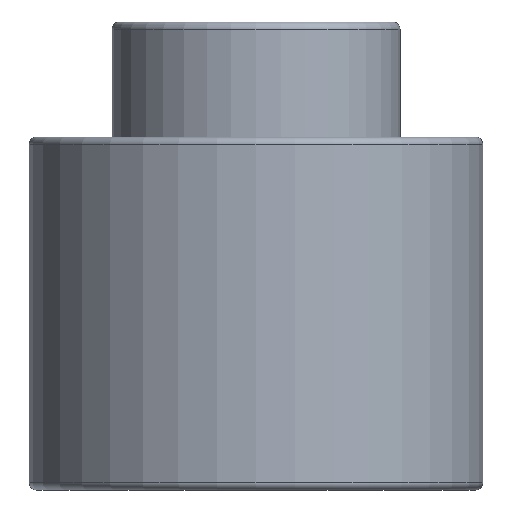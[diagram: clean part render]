
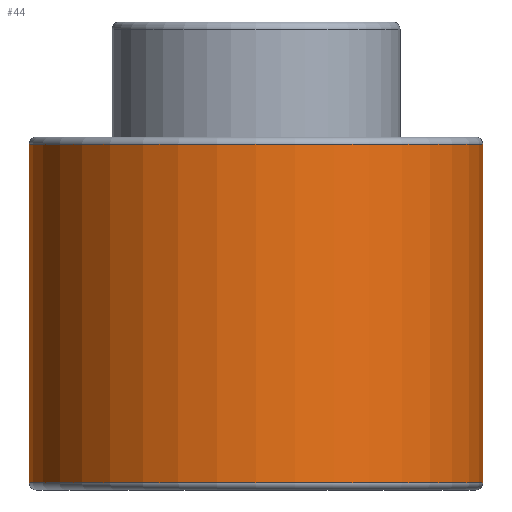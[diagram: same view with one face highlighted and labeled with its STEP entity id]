
A CAD part, front view. The second image highlights one B-rep face of the part: STEP entity #44.
In plain terms, the highlighted cylindrical face has radius 31.5 mm (diameter 63 mm), a full revolution.
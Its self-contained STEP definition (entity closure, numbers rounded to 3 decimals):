
#44=ADVANCED_FACE('',(#60,#61),#56,.T.);
#56=CYLINDRICAL_SURFACE('',#166,31.5);
#60=FACE_BOUND('',#84,.T.);
#61=FACE_BOUND('',#85,.T.);
#84=EDGE_LOOP('',(#106));
#85=EDGE_LOOP('',(#107));
#106=ORIENTED_EDGE('',*,*,#141,.F.);
#107=ORIENTED_EDGE('',*,*,#142,.T.);
#128=VERTEX_POINT('',#237);
#129=VERTEX_POINT('',#239);
#141=EDGE_CURVE('',#128,#128,#152,.T.);
#142=EDGE_CURVE('',#129,#129,#153,.T.);
#152=CIRCLE('',#164,31.5);
#153=CIRCLE('',#165,31.5);
#164=AXIS2_PLACEMENT_3D('',#236,#189,#190);
#165=AXIS2_PLACEMENT_3D('',#238,#191,#192);
#166=AXIS2_PLACEMENT_3D('',#240,#193,#194);
#189=DIRECTION('',(0.,0.,-1.));
#190=DIRECTION('',(-1.,0.,0.));
#191=DIRECTION('',(0.,0.,-1.));
#192=DIRECTION('',(-1.,0.,0.));
#193=DIRECTION('',(0.,0.,-1.));
#194=DIRECTION('',(-1.,0.,0.));
#236=CARTESIAN_POINT('',(0.,0.,1.));
#237=CARTESIAN_POINT('',(-31.5,0.,1.));
#238=CARTESIAN_POINT('',(0.,0.,48.));
#239=CARTESIAN_POINT('',(-31.5,0.,48.));
#240=CARTESIAN_POINT('',(0.,0.,0.));
